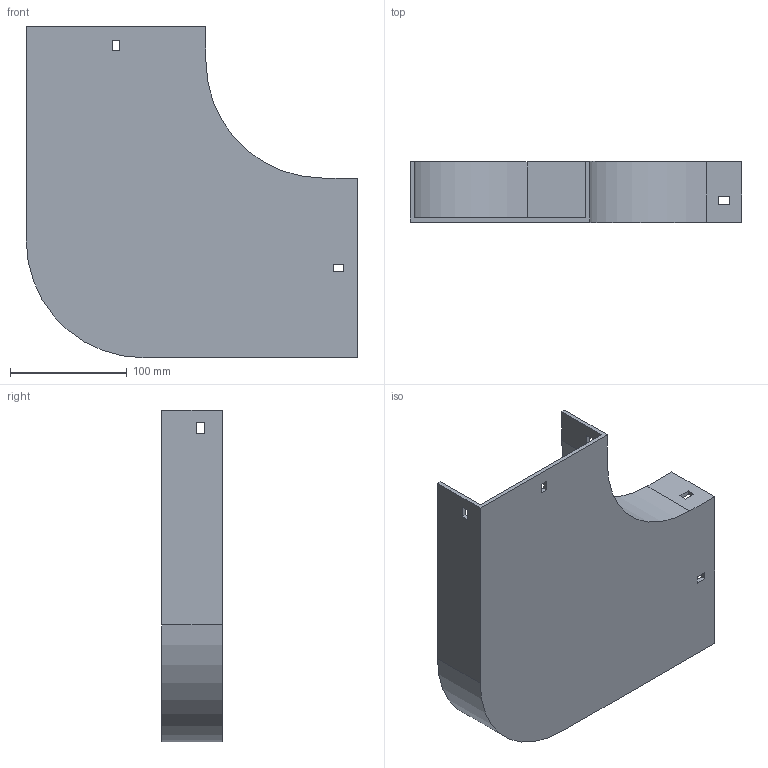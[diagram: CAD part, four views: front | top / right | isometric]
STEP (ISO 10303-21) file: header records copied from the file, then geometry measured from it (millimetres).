
FILE_DESCRIPTION (( 'STEP AP214' ), '1' );
FILE_NAME ('10F1B150.step', '2025-02-21T12:56:59', ( '' ), ( '' ), 'SwSTEP 2.0', 'SolidWorks 2023', '' );
FILE_SCHEMA (( 'AUTOMOTIVE_DESIGN' ));
Length unit declared in the file: millimetre
Products named in the file (1): 10F1B150
Bounding box: 284 x 52 x 284 mm (x, y, z)
Volume: 347738 mm3; surface area: 203755 mm2
Topology: 1 solids, 1 shells, 42 faces, 120 edges, 80 vertices
Faces by surface type: plane 38, cylinder 4
Entity records: 1399 total; most frequent: CARTESIAN_POINT 243, ORIENTED_EDGE 240, DIRECTION 214, EDGE_CURVE 120, LINE 112, VECTOR 112, VERTEX_POINT 80, EDGE_LOOP 54
